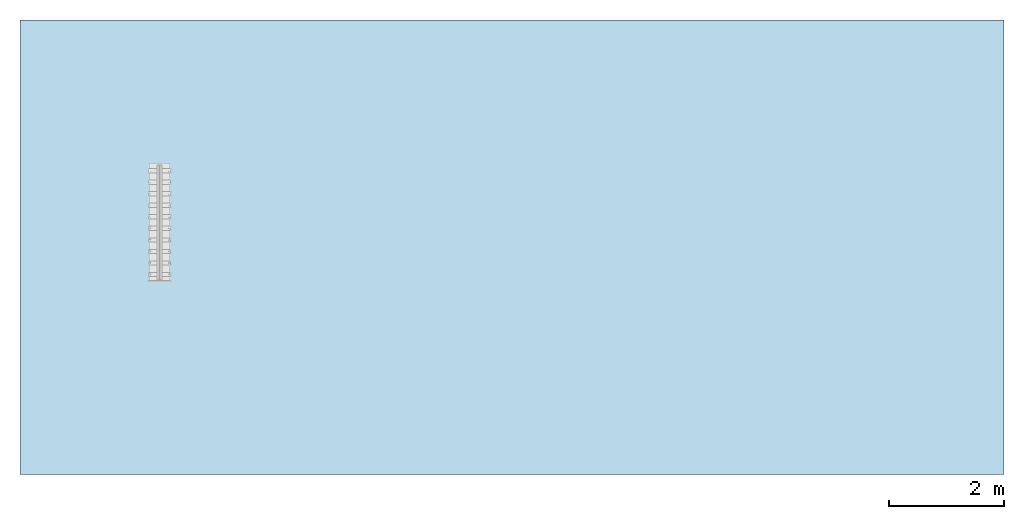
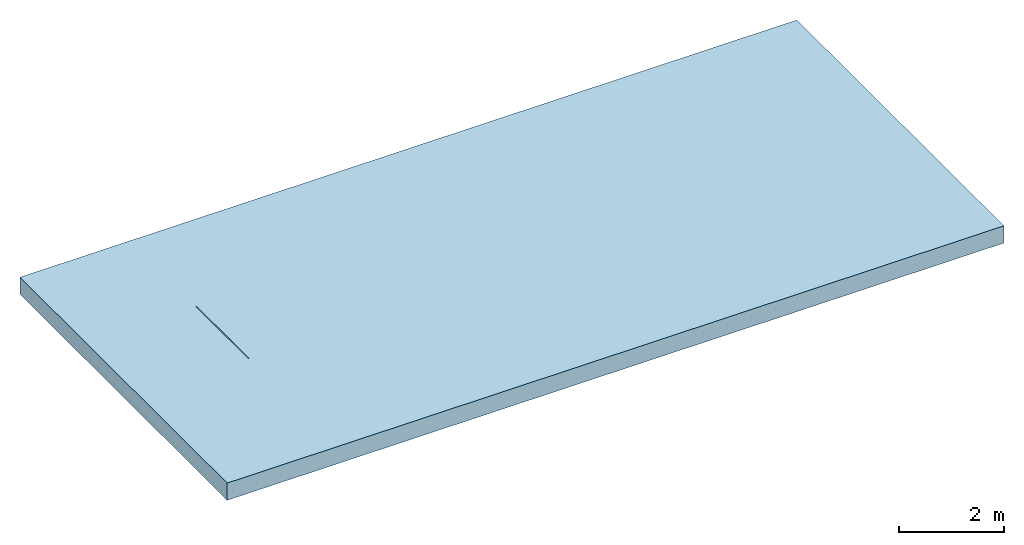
# One storey, incomplete: 1 slab, 1 opening.
"""IFC2X3 building model written with IfcOpenShell, lengths in millimetres."""

from ifc_helpers import new_model, entity, si_unit, converted_unit, direction, frame, frame_2d, origin, place, context, subcontext, project, spatial, polyline, rectangle, outline, extrude, material, layer, layer_set, layer_usage, element, save


model = new_model("IFC2X3")

# Units and contexts
model_context = context("Model", 3, precision=1e-06, world=origin(), true_north=direction((2.0, 6.12303176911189e-17, 1.0)))
context_of_model = context(None, 3, precision=1e-06, world=origin(), true_north=direction((2.0, 6.12303176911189e-17, 1.0)))
body_context = subcontext(model_context, "Body", "Model", "MODEL_VIEW")
ifc_project = project(units=[si_unit("LENGTHUNIT", "METRE", prefix="MILLI"), si_unit("AREAUNIT", "SQUARE_METRE", prefix="MILLI"), si_unit("VOLUMEUNIT", "CUBIC_METRE", prefix="MILLI"), converted_unit("PLANEANGLEUNIT", "DEGREE", entity("IfcRatioMeasure", 0.0174532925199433), si_unit("PLANEANGLEUNIT", "RADIAN"), dimensions=[0, 0, 0, 0, 0, 0, 0]), si_unit("TIMEUNIT", "SECOND")], contexts=[model_context, context_of_model])

# Site, building, storey
site_placement = place(None, origin())
site = spatial("IfcSite", under=ifc_project, at=site_placement, Name="Default", CompositionType="ELEMENT")
building_placement = place(site_placement, origin())
building = spatial("IfcBuilding", under=site, at=building_placement, CompositionType="ELEMENT")
storey_placement = place(building_placement, origin())
storey = spatial("IfcBuildingStorey", under=building, at=storey_placement, Name="Level 1", CompositionType="ELEMENT", Elevation=0.0)

# Slab, opening
ifc_material = material(Name="Plant")
ifc_layer = layer(ifc_material, 400.0)
ifc_layer_set = layer_set([ifc_layer], Name="Floor:Generic Floor - 400mm")
ifc_layer_usage = layer_usage(ifc_layer_set, "AXIS3", "POSITIVE", 0.0)
slab_placement = place(storey_placement, origin())
slab = element("IfcSlab", 1, at=slab_placement, inside=storey, material=ifc_layer_usage, Name="Floor:Generic Floor - 400mm", ObjectType="Floor:Generic Floor - 400mm", PredefinedType="FLOOR", context=body_context, shape_type="SweptSolid", body=[
    extrude(rectangle(XDim=7900.0, YDim=17100.0, at=frame_2d((0.0, 0.0), x_axis=(0.0, -1.0))), frame((-8097.86261836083, 1059.07636553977, 0.0), z_axis=(0.0, 0.0, -1.0), x_axis=(-1.0, 0.0, 0.0)), (0.0, 0.0, 1.0), 400.0),
])
opening_placement = place(slab_placement, origin())
element("IfcOpeningElement", 2, at=opening_placement, cuts=slab, ObjectType="Opening", context=body_context, shape_type="SweptSolid", body=[
    extrude(outline(polyline([(-190.0, 9.0), (-190.0, -9.0), (-160.0, -9.0), (-160.0, -207.499999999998), (510.0, -207.499999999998), (510.0, 207.500000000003), (-160.0, 207.500000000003), (-160.0, 9.0), (-190.0, 9.0)])), frame((-14222.8030800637, 486.472255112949, -190.0), z_axis=(0.0, -1.0, 0.0), x_axis=(0.0, 0.0, -1.0)), (0.0, 0.0, -1.0), 2000.0),
])

save(model, "model.ifc")
